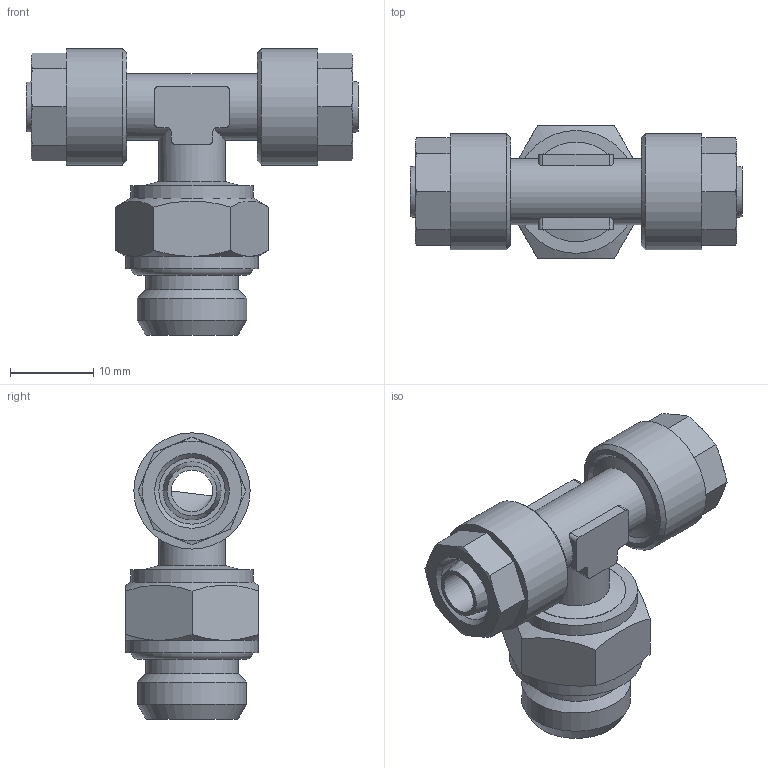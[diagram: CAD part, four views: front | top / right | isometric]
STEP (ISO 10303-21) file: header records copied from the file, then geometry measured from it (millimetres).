
FILE_DESCRIPTION(/* description */ (''),/* implementation_level */ '2;1');
FILE_NAME(/* name */ '12154_307DZ_86_G14_30.08.16',/* time_stamp */ '2016-08-30T08:06:08+02:00',/* author */ (''),/* organization */ (''),/* preprocessor_version */ 'ST-DEVELOPER v16.5',/* originating_system */ 'HiCAD 2016 2101.0 Build 254',/* authorisation */ '');
FILE_SCHEMA (('AUTOMOTIVE_DESIGN { 1 0 10303 214 1 1 1 1 }'));
Length unit declared in the file: millimetre
Products named in the file (6): Root; Gewindestück_1-4; OR 11.11X1.78; 12154; 17006
Assembly tree (5 placements, depth 2):
  Root
    Gewindestück_1-4
    OR 11.11X1.78
    12154
    17006
    17006
Bounding box: 40 x 16 x 34.5 mm (x, y, z)
Volume: 5628 mm3; surface area: 6430.1 mm2
Topology: 5 solids, 5 shells, 144 faces, 346 edges, 220 vertices
Faces by surface type: plane 60, cone 42, cylinder 37, torus 5
Full cylindrical faces by diameter (mm): 5 x2, 6.8 x2, 8 x5, 10.773 x2, 11.1 x1, 12 x4, 13.157 x1, 14 x2, 14.8 x1, 16 x1
Entity records: 9378 total; most frequent: CARTESIAN_POINT 3399, DIRECTION 722, PRESENTATION_STYLE_ASSIGNMENT 555, COLOUR_RGB 552, DRAUGHTING_PRE_DEFINED_CURVE_FONT 550, CURVE_STYLE 550, OVER_RIDING_STYLED_ITEM 550, ORIENTED_EDGE 550
